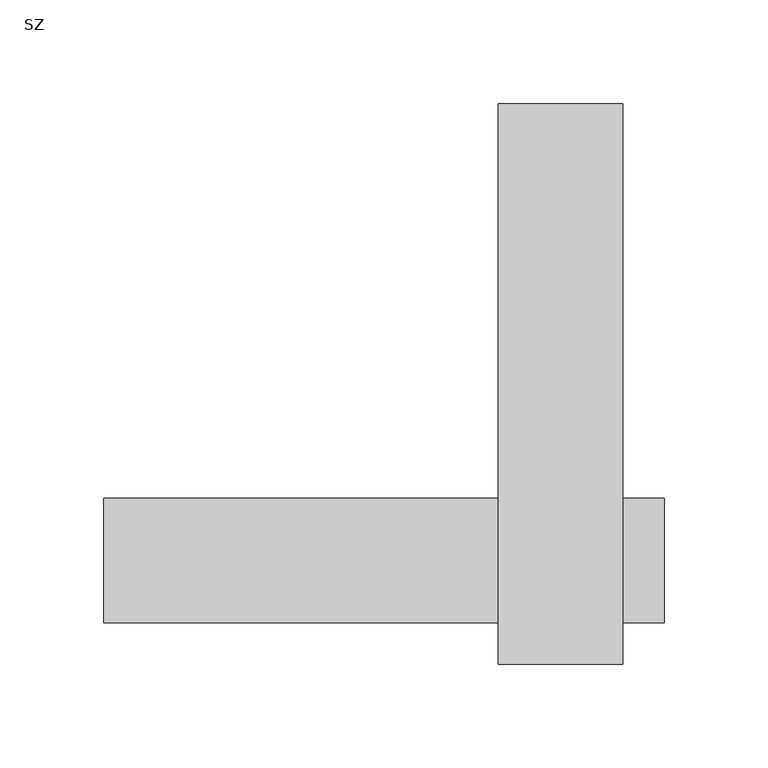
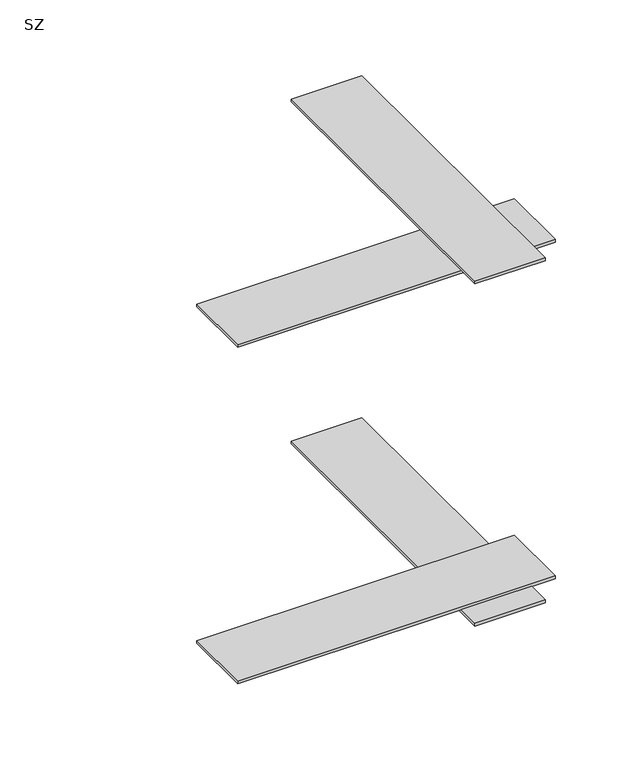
"""IFC4 building model written with IfcOpenShell, lengths in millimetres: cable carrier fitting geometry, IEK_Листовой_Поворот шарнирный верт : SZ."""

from ifc_helpers import new_model, si_unit, frame, origin, place, context, project, spatial, polyline, outline, extrude, source, transform, mapped, element, save


def sz_49492b6d(model_context):
    return source(origin(), model_context, "Body", "SweptSolid", [
        extrude(outline(polyline([(30.0, -50.0), (-30.0, -50.0), (-30.0, 220.0), (30.0, 220.0), (30.0, -50.0)])), frame((0.0, 0.0, 152.5), z_axis=(0.0, 0.0, 1.0), x_axis=(1.0, 0.0, 0.0)), (0.0, 0.0, 1.0), 2.5),
        extrude(outline(polyline([(30.0, -50.0), (-30.0, -50.0), (-30.0, 220.0), (30.0, 220.0), (30.0, -50.0)])), frame((0.0, 0.0, -155.0), z_axis=(0.0, 0.0, 1.0), x_axis=(1.0, 0.0, 0.0)), (0.0, 0.0, 1.0), 2.5),
        extrude(outline(polyline([(-220.0, -30.0), (-220.0, 30.0), (50.0, 30.0), (50.0, -30.0), (-220.0, -30.0)])), frame((0.0, 0.0, 150.0), z_axis=(0.0, 0.0, 1.0), x_axis=(1.0, 0.0, 0.0)), (0.0, 0.0, 1.0), 2.5),
        extrude(outline(polyline([(50.0, -30.0), (-220.0, -30.0), (-220.0, 30.0), (50.0, 30.0), (50.0, -30.0)])), frame((0.0, 0.0, -152.5), z_axis=(0.0, 0.0, 1.0), x_axis=(1.0, 0.0, 0.0)), (0.0, 0.0, 1.0), 2.5),
    ])


if __name__ == "__main__":
    model = new_model("IFC4")
    model_context = context("Model", 3, world=origin())
    ifc_project = project(units=[si_unit("LENGTHUNIT", "METRE", prefix="MILLI")], contexts=[model_context])
    site = spatial("IfcSite", under=ifc_project)
    building = spatial("IfcBuilding", under=site)
    placement = place(None, origin())
    sz_shape = sz_49492b6d(model_context)
    element("IfcCableCarrierFitting", 1, ObjectType="IEK_Листовой_Поворот шарнирный верт : SZ", at=placement, inside=building, context=model_context, shape_type="MappedRepresentation", body=[
        mapped(sz_shape, transform((0.0, 0.0, 0.0), x_axis=(1.0, 0.0, 0.0), y_axis=(0.0, 1.0, 0.0), z_axis=(0.0, 0.0, 1.0))),
    ])
    save(model, "model.ifc")
